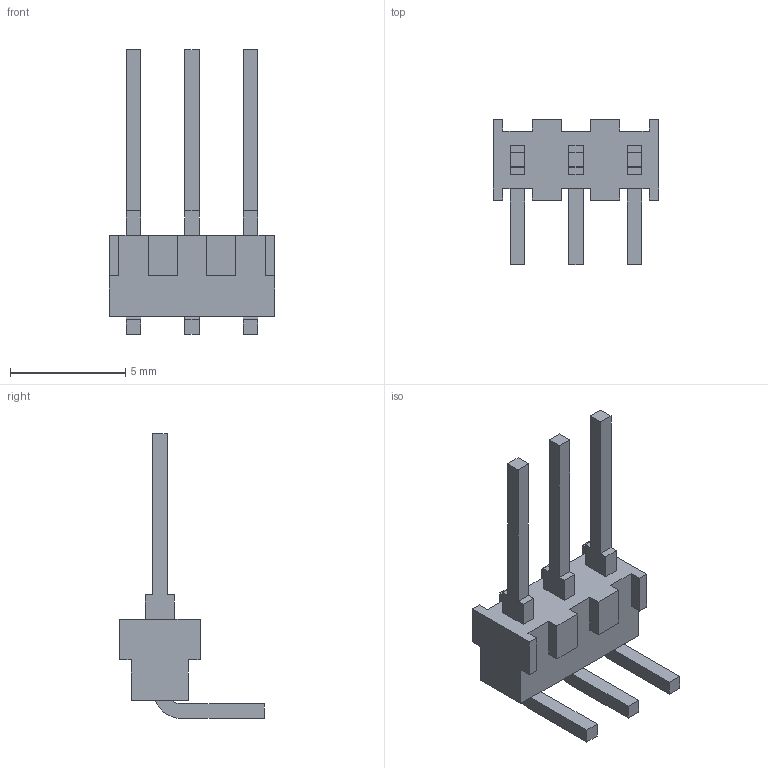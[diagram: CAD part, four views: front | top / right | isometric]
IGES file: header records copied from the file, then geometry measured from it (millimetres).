
Start section:  PTC IGES file: c-2267064-3-a-3d.igs
Global section: file name: c-2267064-3-a-3d.igs; native system: Creo Parametric by PTC Inc.; preprocessor: 2015200; author: workeradm; organization: Unknown; units: millimetre
Bounding box: 7.21 x 6.3 x 12.38 mm (x, y, z)
Surface area: 225.7 mm2 (no closed solid volume)
Topology: 0 solids, 0 shells, 82 faces, 444 edges, 444 vertices
Faces by surface type: bspline 76, revolution 6
